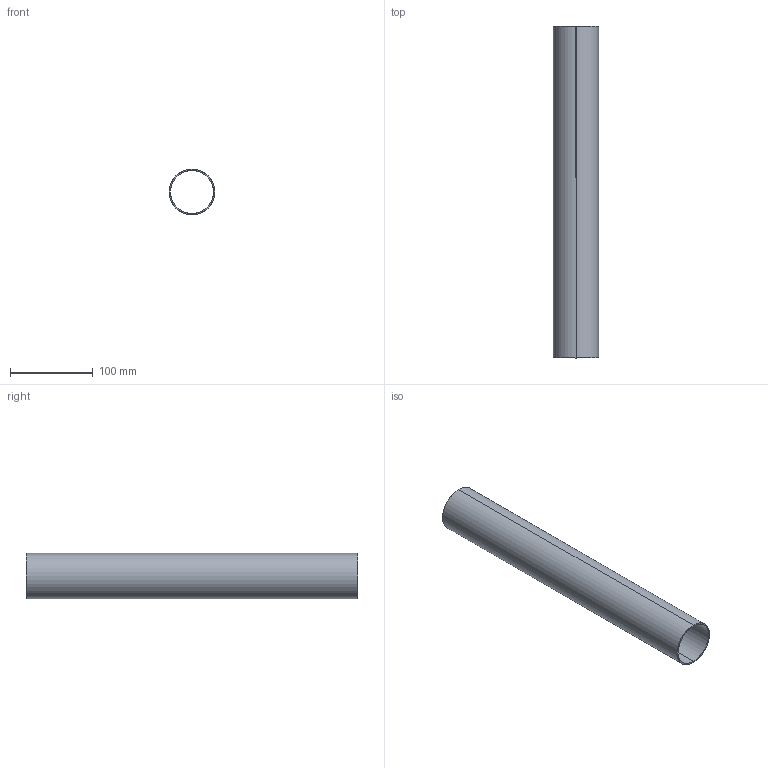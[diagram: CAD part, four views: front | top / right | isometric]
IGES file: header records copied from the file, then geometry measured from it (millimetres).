
Start section: SolidWorks IGES file using analytic representation for surfaces
Global section: file name: F:\GABRYSIA\MODELE 3D\_CAMELEON\KLOSZE I OPRAWY WWW\EYE_L_8484_8482_8477_8475_8480_WWW\EYE_L_8484_8482_8477_8475_8480.IGS; native system: SolidWorks 2017; preprocessor: SolidWorks 2017; author: Togambi; date: 200515.003250; units: millimetre
Bounding box: 55 x 400 x 55 mm (x, y, z)
Surface area: 134964.4 mm2 (no closed solid volume)
Topology: 0 solids, 0 shells, 6 faces, 272 edges, 272 vertices
Faces by surface type: revolution 4, bspline 2
